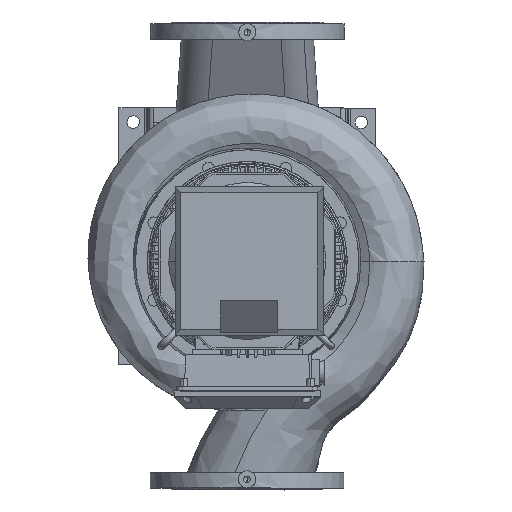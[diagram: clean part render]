
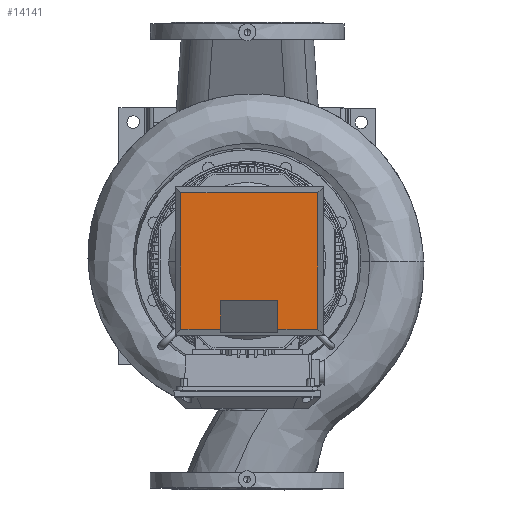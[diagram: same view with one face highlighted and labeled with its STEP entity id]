
A CAD part, top view. The second image highlights one B-rep face of the part: STEP entity #14141.
In plain terms, the highlighted planar face has unit normal (0, 0, 1) as drawn and (0, 1, 0) by its records, which use the part's own axes.
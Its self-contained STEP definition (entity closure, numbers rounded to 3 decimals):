
#14141=ADVANCED_FACE('',(#27299),#27300,.T.);
#14151=EDGE_CURVE('',#27315,#27312,#27316,.T.);
#27299=FACE_OUTER_BOUND('',#67421,.T.);
#27300=PLANE('',#67422);
#27312=VERTEX_POINT('',#67435);
#27315=VERTEX_POINT('',#67440);
#27316=LINE('',#67441,#67442);
#67421=EDGE_LOOP('',(#79339,#79340,#79341,#79342,#79343,#79344,#79345,#79346));
#67422=AXIS2_PLACEMENT_3D('',#79347,#79348,#79349);
#67435=CARTESIAN_POINT('',(-50.0,90.0,199.485));
#67440=CARTESIAN_POINT('',(-50.0,90.0,250.0));
#67441=CARTESIAN_POINT('',(-50.0,90.0,127.834));
#67442=VECTOR('',#79375,1.0);
#79339=ORIENTED_EDGE('',*,*,#82500,.T.);
#79340=ORIENTED_EDGE('',*,*,#82506,.F.);
#79341=ORIENTED_EDGE('',*,*,#82514,.F.);
#79342=ORIENTED_EDGE('',*,*,#82516,.F.);
#79343=ORIENTED_EDGE('',*,*,#82508,.F.);
#79344=ORIENTED_EDGE('',*,*,#82502,.F.);
#79345=ORIENTED_EDGE('',*,*,#14151,.T.);
#79346=ORIENTED_EDGE('',*,*,#82496,.T.);
#79347=CARTESIAN_POINT('',(0.0,90.0,0.0));
#79348=DIRECTION('',(0.0,1.0,-0.0));
#79349=DIRECTION('',(-1.0,0.0,0.0));
#79375=DIRECTION('',(0.0,-0.0,-1.0));
#82496=EDGE_CURVE('',#27312,#86568,#86571,.T.);
#82500=EDGE_CURVE('',#86568,#86574,#86576,.T.);
#82502=EDGE_CURVE('',#27315,#86578,#86579,.T.);
#82506=EDGE_CURVE('',#86584,#86574,#86586,.T.);
#82508=EDGE_CURVE('',#86578,#86588,#86589,.T.);
#82514=EDGE_CURVE('',#86594,#86584,#86596,.T.);
#82516=EDGE_CURVE('',#86588,#86594,#86598,.T.);
#86568=VERTEX_POINT('',#99356);
#86571=LINE('',#99360,#99361);
#86574=VERTEX_POINT('',#99365);
#86576=LINE('',#99368,#99369);
#86578=VERTEX_POINT('',#99371);
#86579=LINE('',#99372,#99373);
#86584=VERTEX_POINT('',#99380);
#86586=LINE('',#99383,#99384);
#86588=VERTEX_POINT('',#99386);
#86589=LINE('',#99387,#99388);
#86594=VERTEX_POINT('',#99396);
#86596=LINE('',#99399,#99400);
#86598=LINE('',#99402,#99403);
#99356=CARTESIAN_POINT('',(50.0,90.0,199.485));
#99360=CARTESIAN_POINT('',(-25.0,90.0,199.485));
#99361=VECTOR('',#100804,1.0);
#99365=CARTESIAN_POINT('',(50.0,90.0,250.0));
#99368=CARTESIAN_POINT('',(50.0,90.0,127.834));
#99369=VECTOR('',#100807,1.0);
#99371=CARTESIAN_POINT('',(-120.0,90.0,250.0));
#99372=CARTESIAN_POINT('',(65.0,90.0,250.0));
#99373=VECTOR('',#100808,1.0);
#99380=CARTESIAN_POINT('',(120.0,90.0,250.0));
#99383=CARTESIAN_POINT('',(65.0,90.0,250.0));
#99384=VECTOR('',#100812,1.0);
#99386=CARTESIAN_POINT('',(-120.0,90.0,10.0));
#99387=CARTESIAN_POINT('',(-120.0,90.0,0.0));
#99388=VECTOR('',#100813,1.0);
#99396=CARTESIAN_POINT('',(120.0,90.0,10.0));
#99399=CARTESIAN_POINT('',(120.0,90.0,0.0));
#99400=VECTOR('',#100818,1.0);
#99402=CARTESIAN_POINT('',(65.0,90.0,10.0));
#99403=VECTOR('',#100819,1.0);
#100804=DIRECTION('',(1.0,0.0,0.0));
#100807=DIRECTION('',(-0.0,0.0,1.0));
#100808=DIRECTION('',(-1.0,0.0,-0.0));
#100812=DIRECTION('',(-1.0,0.0,-0.0));
#100813=DIRECTION('',(-0.0,-0.0,-1.0));
#100818=DIRECTION('',(-0.0,0.0,1.0));
#100819=DIRECTION('',(1.0,-0.0,-0.0));
